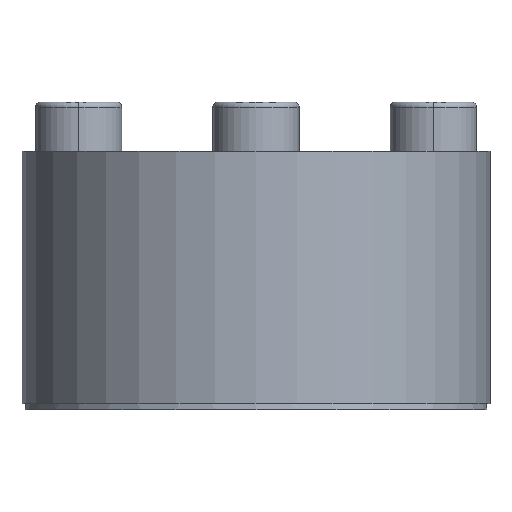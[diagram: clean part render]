
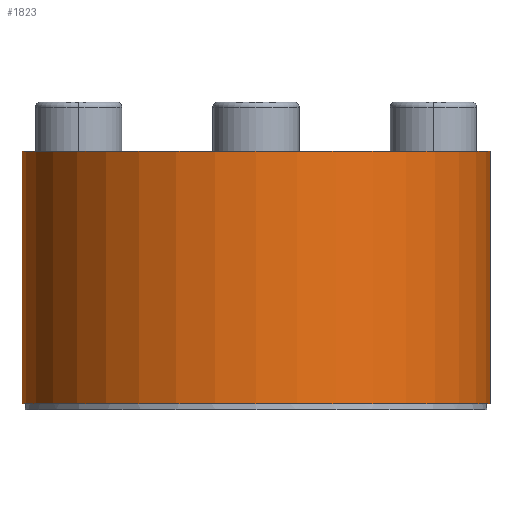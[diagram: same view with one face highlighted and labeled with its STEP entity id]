
A CAD part, front view. The second image highlights one B-rep face of the part: STEP entity #1823.
In plain terms, the highlighted cylindrical face has radius 19 mm (diameter 38 mm), a partial arc.
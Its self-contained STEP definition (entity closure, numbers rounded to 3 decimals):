
#38 = AXIS2_PLACEMENT_3D ( 'NONE', #4791, #5356, #372 ) ;
#118 = ORIENTED_EDGE ( 'NONE', *, *, #3369, .T. ) ;
#214 = EDGE_CURVE ( 'NONE', #2963, #6931, #1892, .T. ) ;
#372 = DIRECTION ( 'NONE',  ( 1., 0., 0. ) ) ;
#517 = CARTESIAN_POINT ( 'NONE',  ( 19., 0., 0.488 ) ) ;
#1621 = FACE_OUTER_BOUND ( 'NONE', #2552, .T. ) ;
#1823 = ADVANCED_FACE ( 'NONE', ( #1621 ), #3901, .T. ) ;
#1892 = LINE ( 'NONE', #5037, #3383 ) ;
#2046 = VERTEX_POINT ( 'NONE', #517 ) ;
#2219 = CARTESIAN_POINT ( 'NONE',  ( 19., 0., 20.988 ) ) ;
#2442 = DIRECTION ( 'NONE',  ( 0., 0., 1. ) ) ;
#2552 = EDGE_LOOP ( 'NONE', ( #5583, #3073, #5275, #118 ) ) ;
#2633 = DIRECTION ( 'NONE',  ( 0., 0., -1. ) ) ;
#2963 = VERTEX_POINT ( 'NONE', #6505 ) ;
#3073 = ORIENTED_EDGE ( 'NONE', *, *, #4825, .F. ) ;
#3240 = CIRCLE ( 'NONE', #6934, 19. ) ;
#3350 = CARTESIAN_POINT ( 'NONE',  ( 0., 0., 0.488 ) ) ;
#3369 = EDGE_CURVE ( 'NONE', #4392, #6931, #3240, .T. ) ;
#3383 = VECTOR ( 'NONE', #4763, 1000. ) ;
#3644 = LINE ( 'NONE', #5761, #4932 ) ;
#3871 = AXIS2_PLACEMENT_3D ( 'NONE', #3350, #7142, #3908 ) ;
#3901 = CYLINDRICAL_SURFACE ( 'NONE', #38, 19. ) ;
#3908 = DIRECTION ( 'NONE',  ( -1., 0., 0. ) ) ;
#4392 = VERTEX_POINT ( 'NONE', #2219 ) ;
#4466 = EDGE_CURVE ( 'NONE', #2046, #4392, #3644, .T. ) ;
#4763 = DIRECTION ( 'NONE',  ( 0., 0., 1. ) ) ;
#4791 = CARTESIAN_POINT ( 'NONE',  ( 0., 0., 0.488 ) ) ;
#4825 = EDGE_CURVE ( 'NONE', #2046, #2963, #5386, .T. ) ;
#4932 = VECTOR ( 'NONE', #2442, 1000. ) ;
#5037 = CARTESIAN_POINT ( 'NONE',  ( -19., 0., 0.488 ) ) ;
#5275 = ORIENTED_EDGE ( 'NONE', *, *, #4466, .T. ) ;
#5356 = DIRECTION ( 'NONE',  ( 0., 0., 1. ) ) ;
#5386 = CIRCLE ( 'NONE', #3871, 19. ) ;
#5583 = ORIENTED_EDGE ( 'NONE', *, *, #214, .F. ) ;
#5761 = CARTESIAN_POINT ( 'NONE',  ( 19., 0., 0.488 ) ) ;
#5934 = CARTESIAN_POINT ( 'NONE',  ( 0., 0., 20.988 ) ) ;
#6256 = CARTESIAN_POINT ( 'NONE',  ( -19., 0., 20.988 ) ) ;
#6447 = DIRECTION ( 'NONE',  ( -1., 0., 0. ) ) ;
#6505 = CARTESIAN_POINT ( 'NONE',  ( -19., 0., 0.488 ) ) ;
#6931 = VERTEX_POINT ( 'NONE', #6256 ) ;
#6934 = AXIS2_PLACEMENT_3D ( 'NONE', #5934, #2633, #6447 ) ;
#7142 = DIRECTION ( 'NONE',  ( 0., 0., -1. ) ) ;
